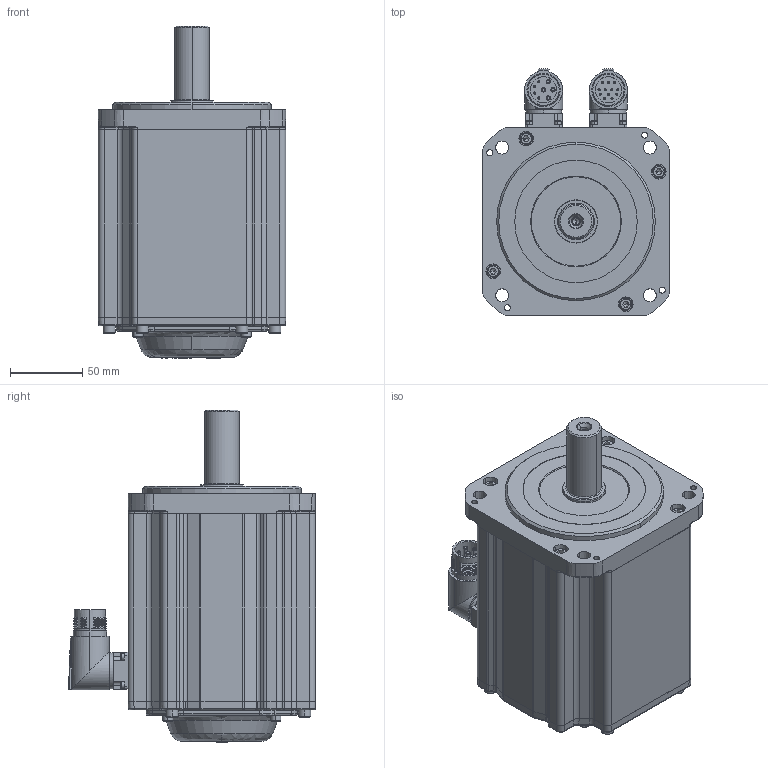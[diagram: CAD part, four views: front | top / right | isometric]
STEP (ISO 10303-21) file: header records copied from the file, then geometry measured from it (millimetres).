
FILE_DESCRIPTION (( 'STEP AP203' ), '1' );
FILE_NAME ('MC20-130-3M20-N102-1¡õPL-NNNN.STEP', '2025-07-29T15:06:03', ( '' ), ( '' ), 'SwSTEP 2.0', 'SolidWorks 2014', '' );
FILE_SCHEMA (( 'CONFIG_CONTROL_DESIGN' ));
Length unit declared in the file: millimetre
Products named in the file (1): MC20-130-3M20-N102-1¡õPL-NNNN
Bounding box: 130 x 171.35 x 230.3 mm (x, y, z)
Volume: 2518067 mm3; surface area: 273364.5 mm2
Topology: 28 solids, 28 shells, 2022 faces, 4794 edges, 2857 vertices
Faces by surface type: plane 733, cylinder 567, cone 358, bspline 204, torus 148, sphere 12
Entity records: 62107 total; most frequent: CARTESIAN_POINT 16808, DIRECTION 9523, ORIENTED_EDGE 9364, EDGE_CURVE 4682, AXIS2_PLACEMENT_3D 3694, VERTEX_POINT 2857, EDGE_LOOP 2269, LINE 2135
